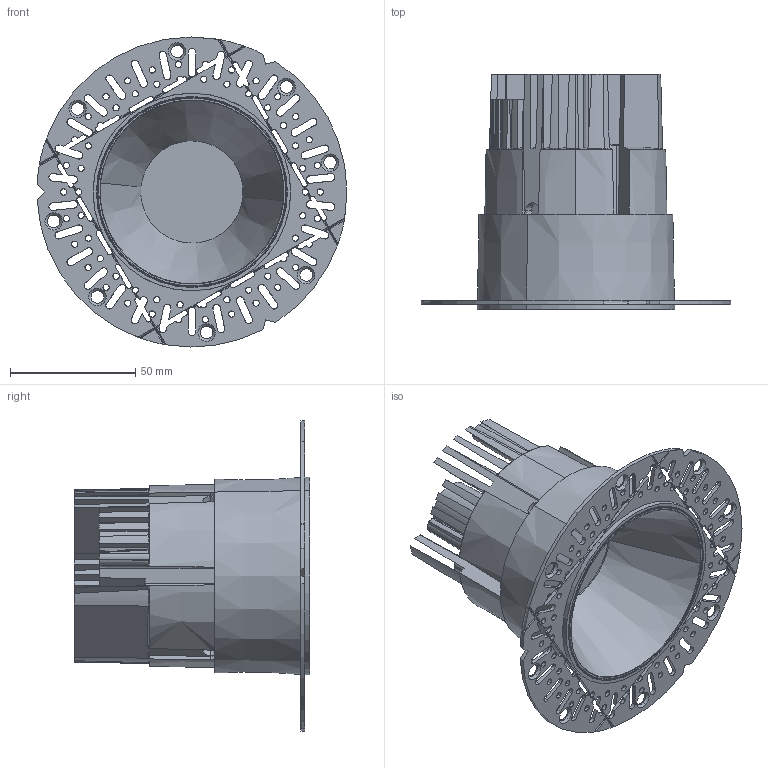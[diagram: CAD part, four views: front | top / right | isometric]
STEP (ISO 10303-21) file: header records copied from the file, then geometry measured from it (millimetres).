
FILE_DESCRIPTION (( 'STEP AP214' ), '1' );
FILE_NAME ('WG-H-PTD3-FA-RPT-RRC.STEP', '2023-02-03T19:47:54', ( '' ), ( '' ), 'SwSTEP 2.0', 'SolidWorks 2021', '' );
FILE_SCHEMA (( 'AUTOMOTIVE_DESIGN' ));
Length unit declared in the file: millimetre
Products named in the file (7): 720-10042-300; Copy of 340-10027-400_stretch out; 760-10049-400; WG-CV-PTD3-RRC-__-_-___WG-CV-PTD3-RRC-RDL-_; WG-H-PTD3-FA-RPT-RRC; 720-10044-300; 720-10061-304
Assembly tree (6 placements, depth 3):
  WG-H-PTD3-FA-RPT-RRC
    720-10042-300
    WG-CV-PTD3-RRC-__-_-___WG-CV-PTD3-RRC-RDL-_
      720-10061-304
      760-10049-400
      Copy of 340-10027-400_stretch out
    720-10044-300
Bounding box: 123.93 x 94 x 124 mm (x, y, z)
Volume: 135129 mm3; surface area: 123971 mm2
Topology: 5 solids, 5 shells, 1128 faces, 3250 edges, 2063 vertices
Faces by surface type: plane 474, cone 398, cylinder 114, bspline 58, torus 54, sphere 30
Entity records: 39745 total; most frequent: CARTESIAN_POINT 10149, ORIENTED_EDGE 6452, DIRECTION 6025, EDGE_CURVE 3226, AXIS2_PLACEMENT_3D 2296, VERTEX_POINT 2063, LINE 1433, VECTOR 1433
